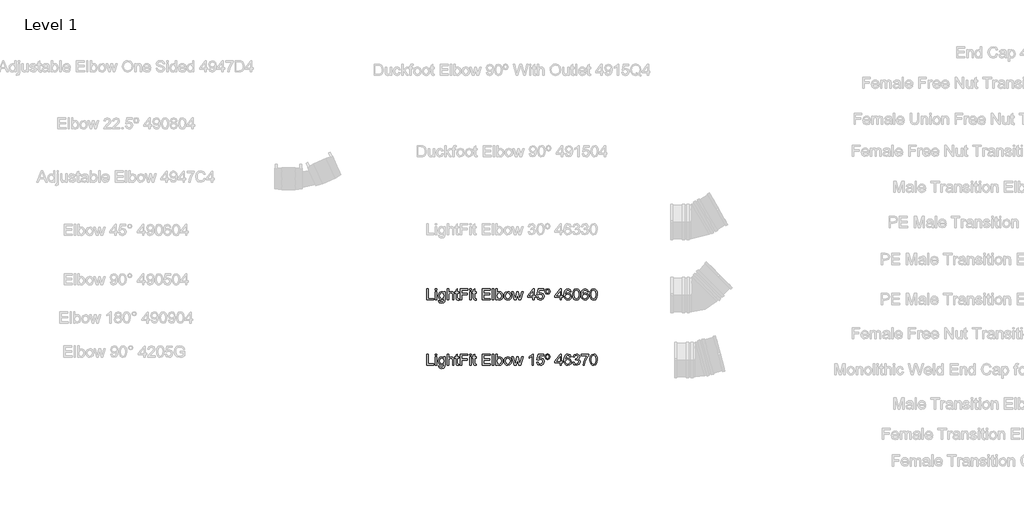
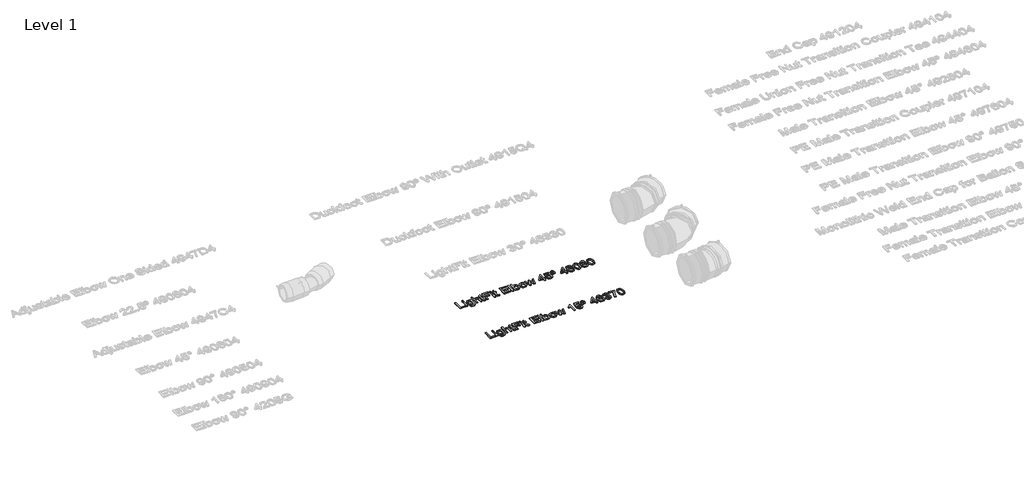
# One storey, part 15 of 41: 2 proxies.
"""IFC4 building model written with IfcOpenShell, lengths in millimetres."""

from ifc_helpers import new_model, si_unit, origin, origin_with_axes, place, context, project, spatial, polyline, outline, extrude, element, save

model = new_model("IFC4")

# Units and contexts
model_context = context("Model", 3, world=origin())
ifc_project = project(units=[si_unit("LENGTHUNIT", "METRE", prefix="MILLI")], contexts=[model_context])

# Site, building, storey
site = spatial("IfcSite", under=ifc_project)
building = spatial("IfcBuilding", under=site)
storey = spatial("IfcBuildingStorey", under=building, Name="Level 1", Elevation=0.0)

# Proxies
placement = place(None, origin())
element("IfcBuildingElementProxy", 1, Name="100 mm Arial", ObjectType="100 mm Arial", at=placement, inside=storey, context=model_context, shape_type="SweptSolid", body=[
    extrude(outline(polyline([(13240.3817727, 3808.5663925), (13240.3817727, 3867.6433156), (13247.766388, 3867.6433156), (13247.766388, 3815.9510079), (13277.3048496, 3815.9510079), (13277.3048496, 3808.5663925), (13240.3817727, 3808.5663925)])), origin_with_axes(), (0.0, 0.0, 1.0), 5.0),
    extrude(outline(polyline([(13284.689465, 3860.2587002), (13284.689465, 3867.6433156), (13292.0740804, 3867.6433156), (13292.0740804, 3860.2587002), (13284.689465, 3860.2587002)])), origin_with_axes(), (0.0, 0.0, 1.0), 5.0),
    extrude(outline(polyline([(13284.689465, 3808.5663925), (13284.689465, 3851.9510079), (13292.0740804, 3851.9510079), (13292.0740804, 3808.5663925), (13284.689465, 3808.5663925)])), origin_with_axes(), (0.0, 0.0, 1.0), 5.0),
    extrude(outline(polyline([(13301.3048496, 3804.8740849), (13308.689465, 3803.9510079), (13311.0836957, 3800.0567772), (13318.251965, 3798.4125464), (13325.8096573, 3800.2731233), (13329.4154265, 3805.4942772), (13329.9202342, 3814.1048541), (13318.3817727, 3808.5663925), (13310.7681909, 3810.1781714), (13305.0909073, 3815.0135079), (13300.3817727, 3830.4750464), (13302.4947534, 3841.9197579), (13308.610138, 3850.0183156), (13318.0211957, 3852.8740849), (13324.6089361, 3851.2587002), (13329.9202342, 3846.4125464), (13329.9202342, 3851.9510079), (13337.3048496, 3851.9510079), (13337.3048496, 3814.4942772), (13335.2856188, 3800.1505272), (13328.8889842, 3793.4798541), (13318.1077342, 3791.027931), (13305.8264842, 3794.4822579), (13301.3048496, 3804.8740849)]), holes=[polyline([(13307.766388, 3830.9798541), (13310.9178304, 3819.5495656), (13318.828888, 3815.9510079), (13326.7255227, 3819.527931), (13329.9202342, 3830.7635079), (13326.6317727, 3841.7755272), (13318.7135034, 3845.4894695), (13310.9610996, 3841.8332195), (13307.766388, 3830.9798541)])]), origin_with_axes(), (0.0, 0.0, 1.0), 5.0),
    extrude(outline(polyline([(13348.3817727, 3808.5663925), (13348.3817727, 3867.6433156), (13355.766388, 3867.6433156), (13355.766388, 3845.9221618), (13361.5248015, 3851.1361041), (13368.6173496, 3852.8740849), (13376.9106188, 3850.9774502), (13381.9442727, 3845.7346618), (13383.4586957, 3836.027931), (13383.4586957, 3808.5663925), (13376.0740804, 3808.5663925), (13376.0740804, 3835.2635079), (13373.7231188, 3843.0519695), (13367.0596573, 3845.4894695), (13361.0091765, 3843.8452387), (13356.970715, 3839.3885079), (13355.766388, 3831.6144695), (13355.766388, 3808.5663925), (13348.3817727, 3808.5663925)])), origin_with_axes(), (0.0, 0.0, 1.0), 5.0),
    extrude(outline(polyline([(13409.3048496, 3814.7250464), (13410.2279265, 3808.3500464), (13404.703888, 3807.6433156), (13398.516388, 3808.8692772), (13395.4298496, 3812.0856233), (13394.5356188, 3820.465431), (13394.5356188, 3844.5663925), (13388.9971573, 3844.5663925), (13388.9971573, 3851.9510079), (13394.5356188, 3851.9510079), (13394.5356188, 3862.4942772), (13401.9202342, 3866.8356233), (13401.9202342, 3851.9510079), (13409.3048496, 3851.9510079), (13409.3048496, 3844.5663925), (13401.9202342, 3844.5663925), (13401.9202342, 3820.6817772), (13402.3096573, 3816.8740849), (13403.5716765, 3815.5255272), (13406.0885034, 3815.027931), (13409.3048496, 3814.7250464)])), origin_with_axes(), (0.0, 0.0, 1.0), 5.0),
    extrude(outline(polyline([(13417.6125419, 3808.5663925), (13417.6125419, 3867.6433156), (13457.3048496, 3867.6433156), (13457.3048496, 3860.2587002), (13424.9971573, 3860.2587002), (13424.9971573, 3842.7202387), (13452.689465, 3842.7202387), (13452.689465, 3835.3356233), (13424.9971573, 3835.3356233), (13424.9971573, 3808.5663925), (13417.6125419, 3808.5663925)])), origin_with_axes(), (0.0, 0.0, 1.0), 5.0),
    extrude(outline(polyline([(13466.5356188, 3808.5663925), (13466.5356188, 3851.9510079), (13473.9202342, 3851.9510079), (13473.9202342, 3808.5663925), (13466.5356188, 3808.5663925)])), origin_with_axes(), (0.0, 0.0, 1.0), 5.0),
    extrude(outline(polyline([(13466.5356188, 3860.2587002), (13466.5356188, 3867.6433156), (13473.9202342, 3867.6433156), (13473.9202342, 3860.2587002), (13466.5356188, 3860.2587002)])), origin_with_axes(), (0.0, 0.0, 1.0), 5.0),
    extrude(outline(polyline([(13500.689465, 3814.7250464), (13501.6125419, 3808.3500464), (13496.0885034, 3807.6433156), (13489.9010034, 3808.8692772), (13486.814465, 3812.0856233), (13485.9202342, 3820.465431), (13485.9202342, 3844.5663925), (13480.3817727, 3844.5663925), (13480.3817727, 3851.9510079), (13485.9202342, 3851.9510079), (13485.9202342, 3862.4942772), (13493.3048496, 3866.8356233), (13493.3048496, 3851.9510079), (13500.689465, 3851.9510079), (13500.689465, 3844.5663925), (13493.3048496, 3844.5663925), (13493.3048496, 3820.6817772), (13493.6942727, 3816.8740849), (13494.9562919, 3815.5255272), (13497.4731188, 3815.027931), (13500.689465, 3814.7250464)])), origin_with_axes(), (0.0, 0.0, 1.0), 5.0),
    extrude(outline(polyline([(13532.0740804, 3808.5663925), (13532.0740804, 3867.6433156), (13574.5356188, 3867.6433156), (13574.5356188, 3860.2587002), (13539.4586957, 3860.2587002), (13539.4586957, 3842.7202387), (13572.689465, 3842.7202387), (13572.689465, 3835.3356233), (13539.4586957, 3835.3356233), (13539.4586957, 3815.9510079), (13575.4586957, 3815.9510079), (13575.4586957, 3808.5663925), (13532.0740804, 3808.5663925)])), origin_with_axes(), (0.0, 0.0, 1.0), 5.0),
    extrude(outline(polyline([(13585.6125419, 3808.5663925), (13585.6125419, 3867.6433156), (13592.9971573, 3867.6433156), (13592.9971573, 3808.5663925), (13585.6125419, 3808.5663925)])), origin_with_axes(), (0.0, 0.0, 1.0), 5.0),
    extrude(outline(polyline([(13611.4586957, 3808.5663925), (13604.0740804, 3808.5663925), (13604.0740804, 3867.6433156), (13611.4586957, 3867.6433156), (13611.4586957, 3845.7346618), (13616.6293688, 3851.0892291), (13623.0548496, 3852.8740849), (13630.453888, 3851.2659118), (13636.1942727, 3846.7442772), (13639.720715, 3839.7130272), (13640.9971573, 3830.9077387), (13639.6756429, 3821.0495656), (13635.7110996, 3813.715431), (13629.8931909, 3809.1613445), (13623.0115804, 3807.6433156), (13616.4454746, 3809.6012483), (13611.4586957, 3815.4750464), (13611.4586957, 3808.5663925)]), holes=[polyline([(13611.4586957, 3830.5615849), (13613.4779265, 3820.2346618), (13622.376965, 3815.027931), (13630.2808111, 3818.8644695), (13633.6125419, 3830.3019695), (13630.4178304, 3841.7827387), (13622.6942727, 3845.4894695), (13614.7904265, 3841.652931), (13611.4586957, 3830.5615849)])]), origin_with_axes(), (0.0, 0.0, 1.0), 5.0),
    extrude(outline(polyline([(13647.4586957, 3830.2587002), (13649.0560515, 3840.7190368), (13653.8481188, 3848.0712002), (13666.8577342, 3852.8740849), (13674.6155467, 3851.4119454), (13680.8120611, 3847.0255272), (13684.8739602, 3840.0609839), (13686.2279265, 3830.8644695), (13683.8336957, 3817.7250464), (13676.860138, 3810.2899502), (13666.8577342, 3807.6433156), (13659.0061717, 3809.1000464), (13652.8168688, 3813.4702387), (13648.798239, 3820.5808156), (13647.4586957, 3830.2587002)]), holes=[polyline([(13654.8433111, 3830.2731233), (13658.2615804, 3818.8284118), (13666.8577342, 3815.027931), (13675.4250419, 3818.8500464), (13678.8433111, 3830.5038925), (13675.4034073, 3841.6889887), (13666.8577342, 3845.4894695), (13658.2615804, 3841.7034118), (13654.8433111, 3830.2731233)])]), origin_with_axes(), (0.0, 0.0, 1.0), 5.0),
    extrude(outline(polyline([(13701.7327342, 3808.5663925), (13688.5356188, 3851.9510079), (13696.2086957, 3851.9510079), (13703.6942727, 3826.6385079), (13705.9298496, 3817.5952387), (13707.7615804, 3826.3067772), (13713.7183111, 3851.9510079), (13722.516388, 3851.9510079), (13728.4442727, 3826.3788925), (13730.0740804, 3818.4894695), (13732.4106188, 3826.8115849), (13739.9106188, 3851.9510079), (13747.6125419, 3851.9510079), (13734.314465, 3808.5663925), (13725.3865804, 3808.5663925), (13719.7183111, 3834.0087002), (13718.0740804, 3841.9413925), (13710.7615804, 3808.5663925), (13701.7327342, 3808.5663925)])), origin_with_axes(), (0.0, 0.0, 1.0), 5.0),
    extrude(outline(polyline([(13797.9202342, 3808.5663925), (13797.9202342, 3822.4125464), (13771.1510034, 3822.4125464), (13771.1510034, 3829.7971618), (13799.766388, 3866.7202387), (13805.3048496, 3866.7202387), (13805.3048496, 3829.7971618), (13812.689465, 3829.7971618), (13812.689465, 3822.4125464), (13805.3048496, 3822.4125464), (13805.3048496, 3808.5663925), (13797.9202342, 3808.5663925)]), holes=[polyline([(13797.9202342, 3829.7971618), (13797.9202342, 3852.6144695), (13780.2375419, 3829.7971618), (13797.9202342, 3829.7971618)])]), origin_with_axes(), (0.0, 0.0, 1.0), 5.0),
    extrude(outline(polyline([(13819.1510034, 3824.2587002), (13826.5356188, 3825.1817772), (13830.2567727, 3817.5736041), (13837.9731188, 3815.027931), (13847.2327342, 3818.5687964), (13850.5356188, 3827.965431), (13847.4418688, 3836.7346618), (13838.0885034, 3839.9510079), (13831.6053304, 3838.6673541), (13827.4586957, 3835.3356233), (13820.0740804, 3836.2587002), (13826.5356188, 3866.7202387), (13855.1510034, 3866.7202387), (13855.1510034, 3859.3356233), (13832.5067727, 3859.3356233), (13829.3481188, 3843.0663925), (13840.1510034, 3847.3356233), (13852.7784073, 3842.0423541), (13857.9202342, 3828.4269695), (13853.2904265, 3814.7250464), (13846.641388, 3809.4137483), (13837.9442727, 3807.6433156), (13824.9130227, 3812.1937964), (13819.1510034, 3824.2587002)])), origin_with_axes(), (0.0, 0.0, 1.0), 5.0),
    extrude(outline(polyline([(13875.9202342, 3868.5663925), (13885.5692727, 3864.5135079), (13889.3048496, 3853.3212002), (13885.547638, 3842.1577387), (13875.9635034, 3838.1048541), (13866.2928304, 3842.0784118), (13862.5356188, 3853.1481233), (13866.2711957, 3864.5135079), (13875.9202342, 3868.5663925)]), holes=[polyline([(13875.9202342, 3863.027931), (13871.5716765, 3860.7562964), (13869.9202342, 3853.3356233), (13871.6005227, 3845.9798541), (13875.9202342, 3843.6433156), (13880.2543688, 3845.9798541), (13881.9202342, 3853.5375464), (13880.2399457, 3860.7130272), (13875.9202342, 3863.027931)])]), origin_with_axes(), (0.0, 0.0, 1.0), 5.0),
    extrude(outline(polyline([(13941.9202342, 3808.5663925), (13941.9202342, 3822.4125464), (13915.1510034, 3822.4125464), (13915.1510034, 3829.7971618), (13943.766388, 3866.7202387), (13949.3048496, 3866.7202387), (13949.3048496, 3829.7971618), (13956.689465, 3829.7971618), (13956.689465, 3822.4125464), (13949.3048496, 3822.4125464), (13949.3048496, 3808.5663925), (13941.9202342, 3808.5663925)]), holes=[polyline([(13941.9202342, 3829.7971618), (13941.9202342, 3852.6144695), (13924.2375419, 3829.7971618), (13941.9202342, 3829.7971618)])]), origin_with_axes(), (0.0, 0.0, 1.0), 5.0),
    extrude(outline(polyline([(14000.9971573, 3851.9510079), (13993.6125419, 3851.027931), (13990.814465, 3857.1865849), (13983.4154265, 3860.2587002), (13976.751965, 3858.4702387), (13971.7110996, 3851.7562964), (13969.6125419, 3838.5952387), (13976.1245611, 3844.4870656), (13984.1942727, 3846.4125464), (13996.7423496, 3841.1481233), (14001.9202342, 3827.5471618), (13999.4827342, 3817.3572579), (13992.7760034, 3810.1457195), (13983.0981188, 3807.6433156), (13974.720114, 3809.3019695), (13968.047638, 3814.277931), (13963.6828544, 3823.0615849), (13962.2279265, 3836.1433156), (13963.8433111, 3850.8512483), (13968.689465, 3860.9077387), (13975.3060515, 3865.9594214), (13983.876965, 3867.6433156), (13995.5452342, 3863.4750464), (14000.9971573, 3851.9510079)]), holes=[polyline([(13969.6125419, 3827.6625464), (13971.3216765, 3821.2659118), (13975.8649457, 3816.621681), (13982.5211957, 3815.027931), (13991.2255227, 3818.3308156), (13994.5356188, 3827.3019695), (13991.2687919, 3835.8909118), (13982.2183111, 3839.027931), (13973.283215, 3835.8909118), (13969.6125419, 3827.6625464)])]), origin_with_axes(), (0.0, 0.0, 1.0), 5.0),
    extrude(outline(polyline([(14008.3817727, 3837.6288925), (14010.5524457, 3854.6264887), (14016.9995611, 3864.4269695), (14027.766388, 3867.6433156), (14036.391388, 3865.7394695), (14042.3481188, 3860.2514887), (14045.8096573, 3851.5111041), (14047.1510034, 3837.6288925), (14045.001965, 3820.7034118), (14038.5764842, 3810.8812964), (14027.766388, 3807.6433156), (14020.0933111, 3809.0495656), (14014.266388, 3813.2683156), (14009.8529265, 3823.2599022), (14008.3817727, 3837.6288925)]), holes=[polyline([(14015.766388, 3837.6433156), (14019.2279265, 3819.3043733), (14027.766388, 3815.027931), (14036.3048496, 3819.3187964), (14039.766388, 3837.6433156), (14036.4202342, 3855.7731233), (14027.6798496, 3860.2587002), (14019.3433111, 3856.3067772), (14015.766388, 3837.6433156)])]), origin_with_axes(), (0.0, 0.0, 1.0), 5.0),
    extrude(outline(polyline([(14091.4586957, 3851.9510079), (14084.0740804, 3851.027931), (14081.2760034, 3857.1865849), (14073.876965, 3860.2587002), (14067.2135034, 3858.4702387), (14062.172638, 3851.7562964), (14060.0740804, 3838.5952387), (14066.5860996, 3844.4870656), (14074.6558111, 3846.4125464), (14087.203888, 3841.1481233), (14092.3817727, 3827.5471618), (14089.9442727, 3817.3572579), (14083.2375419, 3810.1457195), (14073.5596573, 3807.6433156), (14065.1816525, 3809.3019695), (14058.5091765, 3814.277931), (14054.1443929, 3823.0615849), (14052.689465, 3836.1433156), (14054.3048496, 3850.8512483), (14059.1510034, 3860.9077387), (14065.76759, 3865.9594214), (14074.3385034, 3867.6433156), (14086.0067727, 3863.4750464), (14091.4586957, 3851.9510079)]), holes=[polyline([(14060.0740804, 3827.6625464), (14061.783215, 3821.2659118), (14066.3264842, 3816.621681), (14072.9827342, 3815.027931), (14081.6870611, 3818.3308156), (14084.9971573, 3827.3019695), (14081.7303304, 3835.8909118), (14072.6798496, 3839.027931), (14063.7447534, 3835.8909118), (14060.0740804, 3827.6625464)])]), origin_with_axes(), (0.0, 0.0, 1.0), 5.0),
    extrude(outline(polyline([(14098.8433111, 3837.6288925), (14101.0139842, 3854.6264887), (14107.4610996, 3864.4269695), (14118.2279265, 3867.6433156), (14126.8529265, 3865.7394695), (14132.8096573, 3860.2514887), (14136.2711957, 3851.5111041), (14137.6125419, 3837.6288925), (14135.4635034, 3820.7034118), (14129.0380227, 3810.8812964), (14118.2279265, 3807.6433156), (14110.5548496, 3809.0495656), (14104.7279265, 3813.2683156), (14100.314465, 3823.2599022), (14098.8433111, 3837.6288925)]), holes=[polyline([(14106.2279265, 3837.6433156), (14109.689465, 3819.3043733), (14118.2279265, 3815.027931), (14126.766388, 3819.3187964), (14130.2279265, 3837.6433156), (14126.8817727, 3855.7731233), (14118.141388, 3860.2587002), (14109.8048496, 3856.3067772), (14106.2279265, 3837.6433156)])]), origin_with_axes(), (0.0, 0.0, 1.0), 5.0),
])
element("IfcBuildingElementProxy", 2, Name="100 mm Arial", ObjectType="100 mm Arial", at=placement, inside=storey, context=model_context, shape_type="SweptSolid", body=[
    extrude(outline(polyline([(13240.3817727, 3465.3655791), (13240.3817727, 3524.4425021), (13247.766388, 3524.4425021), (13247.766388, 3472.7501944), (13277.3048496, 3472.7501944), (13277.3048496, 3465.3655791), (13240.3817727, 3465.3655791)])), origin_with_axes(), (0.0, 0.0, 1.0), 5.0),
    extrude(outline(polyline([(13284.689465, 3517.0578868), (13284.689465, 3524.4425021), (13292.0740804, 3524.4425021), (13292.0740804, 3517.0578868), (13284.689465, 3517.0578868)])), origin_with_axes(), (0.0, 0.0, 1.0), 5.0),
    extrude(outline(polyline([(13284.689465, 3465.3655791), (13284.689465, 3508.7501944), (13292.0740804, 3508.7501944), (13292.0740804, 3465.3655791), (13284.689465, 3465.3655791)])), origin_with_axes(), (0.0, 0.0, 1.0), 5.0),
    extrude(outline(polyline([(13301.3048496, 3461.6732714), (13308.689465, 3460.7501944), (13311.0836957, 3456.8559637), (13318.251965, 3455.2117329), (13325.8096573, 3457.0723098), (13329.4154265, 3462.2934637), (13329.9202342, 3470.9040406), (13318.3817727, 3465.3655791), (13310.7681909, 3466.9773579), (13305.0909073, 3471.8126944), (13300.3817727, 3487.2742329), (13302.4947534, 3498.7189444), (13308.610138, 3506.8175021), (13318.0211957, 3509.6732714), (13324.6089361, 3508.0578868), (13329.9202342, 3503.2117329), (13329.9202342, 3508.7501944), (13337.3048496, 3508.7501944), (13337.3048496, 3471.2934637), (13335.2856188, 3456.9497137), (13328.8889842, 3450.2790406), (13318.1077342, 3447.8271175), (13305.8264842, 3451.2814444), (13301.3048496, 3461.6732714)]), holes=[polyline([(13307.766388, 3487.7790406), (13310.9178304, 3476.3487521), (13318.828888, 3472.7501944), (13326.7255227, 3476.3271175), (13329.9202342, 3487.5626944), (13326.6317727, 3498.5747137), (13318.7135034, 3502.288656), (13310.9610996, 3498.632406), (13307.766388, 3487.7790406)])]), origin_with_axes(), (0.0, 0.0, 1.0), 5.0),
    extrude(outline(polyline([(13348.3817727, 3465.3655791), (13348.3817727, 3524.4425021), (13355.766388, 3524.4425021), (13355.766388, 3502.7213483), (13361.5248015, 3507.9352906), (13368.6173496, 3509.6732714), (13376.9106188, 3507.7766368), (13381.9442727, 3502.5338483), (13383.4586957, 3492.8271175), (13383.4586957, 3465.3655791), (13376.0740804, 3465.3655791), (13376.0740804, 3492.0626944), (13373.7231188, 3499.851156), (13367.0596573, 3502.288656), (13361.0091765, 3500.6444252), (13356.970715, 3496.1876944), (13355.766388, 3488.413656), (13355.766388, 3465.3655791), (13348.3817727, 3465.3655791)])), origin_with_axes(), (0.0, 0.0, 1.0), 5.0),
    extrude(outline(polyline([(13409.3048496, 3471.5242329), (13410.2279265, 3465.1492329), (13404.703888, 3464.4425021), (13398.516388, 3465.6684637), (13395.4298496, 3468.8848098), (13394.5356188, 3477.2646175), (13394.5356188, 3501.3655791), (13388.9971573, 3501.3655791), (13388.9971573, 3508.7501944), (13394.5356188, 3508.7501944), (13394.5356188, 3519.2934637), (13401.9202342, 3523.6348098), (13401.9202342, 3508.7501944), (13409.3048496, 3508.7501944), (13409.3048496, 3501.3655791), (13401.9202342, 3501.3655791), (13401.9202342, 3477.4809637), (13402.3096573, 3473.6732714), (13403.5716765, 3472.3247137), (13406.0885034, 3471.8271175), (13409.3048496, 3471.5242329)])), origin_with_axes(), (0.0, 0.0, 1.0), 5.0),
    extrude(outline(polyline([(13417.6125419, 3465.3655791), (13417.6125419, 3524.4425021), (13457.3048496, 3524.4425021), (13457.3048496, 3517.0578868), (13424.9971573, 3517.0578868), (13424.9971573, 3499.5194252), (13452.689465, 3499.5194252), (13452.689465, 3492.1348098), (13424.9971573, 3492.1348098), (13424.9971573, 3465.3655791), (13417.6125419, 3465.3655791)])), origin_with_axes(), (0.0, 0.0, 1.0), 5.0),
    extrude(outline(polyline([(13466.5356188, 3465.3655791), (13466.5356188, 3508.7501944), (13473.9202342, 3508.7501944), (13473.9202342, 3465.3655791), (13466.5356188, 3465.3655791)])), origin_with_axes(), (0.0, 0.0, 1.0), 5.0),
    extrude(outline(polyline([(13466.5356188, 3517.0578868), (13466.5356188, 3524.4425021), (13473.9202342, 3524.4425021), (13473.9202342, 3517.0578868), (13466.5356188, 3517.0578868)])), origin_with_axes(), (0.0, 0.0, 1.0), 5.0),
    extrude(outline(polyline([(13500.689465, 3471.5242329), (13501.6125419, 3465.1492329), (13496.0885034, 3464.4425021), (13489.9010034, 3465.6684637), (13486.814465, 3468.8848098), (13485.9202342, 3477.2646175), (13485.9202342, 3501.3655791), (13480.3817727, 3501.3655791), (13480.3817727, 3508.7501944), (13485.9202342, 3508.7501944), (13485.9202342, 3519.2934637), (13493.3048496, 3523.6348098), (13493.3048496, 3508.7501944), (13500.689465, 3508.7501944), (13500.689465, 3501.3655791), (13493.3048496, 3501.3655791), (13493.3048496, 3477.4809637), (13493.6942727, 3473.6732714), (13494.9562919, 3472.3247137), (13497.4731188, 3471.8271175), (13500.689465, 3471.5242329)])), origin_with_axes(), (0.0, 0.0, 1.0), 5.0),
    extrude(outline(polyline([(13532.0740804, 3465.3655791), (13532.0740804, 3524.4425021), (13574.5356188, 3524.4425021), (13574.5356188, 3517.0578868), (13539.4586957, 3517.0578868), (13539.4586957, 3499.5194252), (13572.689465, 3499.5194252), (13572.689465, 3492.1348098), (13539.4586957, 3492.1348098), (13539.4586957, 3472.7501944), (13575.4586957, 3472.7501944), (13575.4586957, 3465.3655791), (13532.0740804, 3465.3655791)])), origin_with_axes(), (0.0, 0.0, 1.0), 5.0),
    extrude(outline(polyline([(13585.6125419, 3465.3655791), (13585.6125419, 3524.4425021), (13592.9971573, 3524.4425021), (13592.9971573, 3465.3655791), (13585.6125419, 3465.3655791)])), origin_with_axes(), (0.0, 0.0, 1.0), 5.0),
    extrude(outline(polyline([(13611.4586957, 3465.3655791), (13604.0740804, 3465.3655791), (13604.0740804, 3524.4425021), (13611.4586957, 3524.4425021), (13611.4586957, 3502.5338483), (13616.6293688, 3507.8884156), (13623.0548496, 3509.6732714), (13630.453888, 3508.0650983), (13636.1942727, 3503.5434637), (13639.720715, 3496.5122137), (13640.9971573, 3487.7069252), (13639.6756429, 3477.8487521), (13635.7110996, 3470.5146175), (13629.8931909, 3465.960531), (13623.0115804, 3464.4425021), (13616.4454746, 3466.4004348), (13611.4586957, 3472.2742329), (13611.4586957, 3465.3655791)]), holes=[polyline([(13611.4586957, 3487.3607714), (13613.4779265, 3477.0338483), (13622.376965, 3471.8271175), (13630.2808111, 3475.663656), (13633.6125419, 3487.101156), (13630.4178304, 3498.5819252), (13622.6942727, 3502.288656), (13614.7904265, 3498.4521175), (13611.4586957, 3487.3607714)])]), origin_with_axes(), (0.0, 0.0, 1.0), 5.0),
    extrude(outline(polyline([(13647.4586957, 3487.0578868), (13649.0560515, 3497.5182233), (13653.8481188, 3504.8703868), (13666.8577342, 3509.6732714), (13674.6155467, 3508.2111319), (13680.8120611, 3503.8247137), (13684.8739602, 3496.8601704), (13686.2279265, 3487.663656), (13683.8336957, 3474.5242329), (13676.860138, 3467.0891368), (13666.8577342, 3464.4425021), (13659.0061717, 3465.8992329), (13652.8168688, 3470.2694252), (13648.798239, 3477.3800021), (13647.4586957, 3487.0578868)]), holes=[polyline([(13654.8433111, 3487.0723098), (13658.2615804, 3475.6275983), (13666.8577342, 3471.8271175), (13675.4250419, 3475.6492329), (13678.8433111, 3487.3030791), (13675.4034073, 3498.4881752), (13666.8577342, 3502.288656), (13658.2615804, 3498.5025983), (13654.8433111, 3487.0723098)])]), origin_with_axes(), (0.0, 0.0, 1.0), 5.0),
    extrude(outline(polyline([(13701.7327342, 3465.3655791), (13688.5356188, 3508.7501944), (13696.2086957, 3508.7501944), (13703.6942727, 3483.4376944), (13705.9298496, 3474.3944252), (13707.7615804, 3483.1059637), (13713.7183111, 3508.7501944), (13722.516388, 3508.7501944), (13728.4442727, 3483.1780791), (13730.0740804, 3475.288656), (13732.4106188, 3483.6107714), (13739.9106188, 3508.7501944), (13747.6125419, 3508.7501944), (13734.314465, 3465.3655791), (13725.3865804, 3465.3655791), (13719.7183111, 3490.8078868), (13718.0740804, 3498.7405791), (13710.7615804, 3465.3655791), (13701.7327342, 3465.3655791)])), origin_with_axes(), (0.0, 0.0, 1.0), 5.0),
    extrude(outline(polyline([(13801.6125419, 3465.3655791), (13794.2279265, 3465.3655791), (13794.2279265, 3511.4040406), (13787.2327342, 3506.4208675), (13779.4586957, 3502.6925021), (13779.4586957, 3509.6732714), (13790.283215, 3516.5819252), (13796.8529265, 3524.4425021), (13801.6125419, 3524.4425021), (13801.6125419, 3465.3655791)])), origin_with_axes(), (0.0, 0.0, 1.0), 5.0),
    extrude(outline(polyline([(13819.1510034, 3481.0578868), (13826.5356188, 3481.9809637), (13830.2567727, 3474.3727906), (13837.9731188, 3471.8271175), (13847.2327342, 3475.3679829), (13850.5356188, 3484.7646175), (13847.4418688, 3493.5338483), (13838.0885034, 3496.7501944), (13831.6053304, 3495.4665406), (13827.4586957, 3492.1348098), (13820.0740804, 3493.0578868), (13826.5356188, 3523.5194252), (13855.1510034, 3523.5194252), (13855.1510034, 3516.1348098), (13832.5067727, 3516.1348098), (13829.3481188, 3499.8655791), (13840.1510034, 3504.1348098), (13852.7784073, 3498.8415406), (13857.9202342, 3485.226156), (13853.2904265, 3471.5242329), (13846.641388, 3466.2129348), (13837.9442727, 3464.4425021), (13824.9130227, 3468.9929829), (13819.1510034, 3481.0578868)])), origin_with_axes(), (0.0, 0.0, 1.0), 5.0),
    extrude(outline(polyline([(13875.9202342, 3525.3655791), (13885.5692727, 3521.3126944), (13889.3048496, 3510.1203868), (13885.547638, 3498.9569252), (13875.9635034, 3494.9040406), (13866.2928304, 3498.8775983), (13862.5356188, 3509.9473098), (13866.2711957, 3521.3126944), (13875.9202342, 3525.3655791)]), holes=[polyline([(13875.9202342, 3519.8271175), (13871.5716765, 3517.5554829), (13869.9202342, 3510.1348098), (13871.6005227, 3502.7790406), (13875.9202342, 3500.4425021), (13880.2543688, 3502.7790406), (13881.9202342, 3510.3367329), (13880.2399457, 3517.5122137), (13875.9202342, 3519.8271175)])]), origin_with_axes(), (0.0, 0.0, 1.0), 5.0),
    extrude(outline(polyline([(13941.9202342, 3465.3655791), (13941.9202342, 3479.2117329), (13915.1510034, 3479.2117329), (13915.1510034, 3486.5963483), (13943.766388, 3523.5194252), (13949.3048496, 3523.5194252), (13949.3048496, 3486.5963483), (13956.689465, 3486.5963483), (13956.689465, 3479.2117329), (13949.3048496, 3479.2117329), (13949.3048496, 3465.3655791), (13941.9202342, 3465.3655791)]), holes=[polyline([(13941.9202342, 3486.5963483), (13941.9202342, 3509.413656), (13924.2375419, 3486.5963483), (13941.9202342, 3486.5963483)])]), origin_with_axes(), (0.0, 0.0, 1.0), 5.0),
    extrude(outline(polyline([(14000.9971573, 3508.7501944), (13993.6125419, 3507.8271175), (13990.814465, 3513.9857714), (13983.4154265, 3517.0578868), (13976.751965, 3515.2694252), (13971.7110996, 3508.5554829), (13969.6125419, 3495.3944252), (13976.1245611, 3501.2862521), (13984.1942727, 3503.2117329), (13996.7423496, 3497.9473098), (14001.9202342, 3484.3463483), (13999.4827342, 3474.1564444), (13992.7760034, 3466.944906), (13983.0981188, 3464.4425021), (13974.720114, 3466.101156), (13968.047638, 3471.0771175), (13963.6828544, 3479.8607714), (13962.2279265, 3492.9425021), (13963.8433111, 3507.6504348), (13968.689465, 3517.7069252), (13975.3060515, 3522.7586079), (13983.876965, 3524.4425021), (13995.5452342, 3520.2742329), (14000.9971573, 3508.7501944)]), holes=[polyline([(13969.6125419, 3484.4617329), (13971.3216765, 3478.0650983), (13975.8649457, 3473.4208675), (13982.5211957, 3471.8271175), (13991.2255227, 3475.1300021), (13994.5356188, 3484.101156), (13991.2687919, 3492.6900983), (13982.2183111, 3495.8271175), (13973.283215, 3492.6900983), (13969.6125419, 3484.4617329)])]), origin_with_axes(), (0.0, 0.0, 1.0), 5.0),
    extrude(outline(polyline([(14008.3817727, 3481.0578868), (14015.766388, 3481.9809637), (14019.8409073, 3474.2069252), (14027.4635034, 3471.8271175), (14036.4346573, 3475.101156), (14039.766388, 3483.2069252), (14036.4635034, 3490.8439444), (14028.0692727, 3493.8655791), (14022.891388, 3493.0578868), (14023.7135034, 3500.4425021), (14033.2760034, 3502.476156), (14036.9971573, 3508.9953868), (14034.3000419, 3514.7718291), (14027.3481188, 3517.0578868), (14020.3096573, 3514.7501944), (14016.689465, 3507.8271175), (14009.3048496, 3508.7501944), (14015.3481188, 3520.3319252), (14027.0885034, 3524.4425021), (14035.9947534, 3522.4160598), (14042.2255227, 3516.8775983), (14044.3817727, 3509.4280791), (14042.3336957, 3502.6203868), (14036.2760034, 3497.7309637), (14044.3240804, 3492.6828868), (14047.1510034, 3483.0771175), (14041.4971573, 3469.8655791), (14027.203888, 3464.4425021), (14014.251965, 3469.0723098), (14008.3817727, 3481.0578868)])), origin_with_axes(), (0.0, 0.0, 1.0), 5.0),
    extrude(outline(polyline([(14053.6125419, 3516.1348098), (14053.6125419, 3523.5194252), (14092.3817727, 3523.5194252), (14092.3817727, 3517.5482714), (14081.3841765, 3501.6612521), (14072.9683111, 3481.4184637), (14070.2279265, 3465.3655791), (14062.8433111, 3465.3655791), (14065.7784073, 3482.0242329), (14073.8336957, 3500.8535598), (14084.9971573, 3516.1348098), (14053.6125419, 3516.1348098)])), origin_with_axes(), (0.0, 0.0, 1.0), 5.0),
    extrude(outline(polyline([(14098.8433111, 3494.4280791), (14101.0139842, 3511.4256752), (14107.4610996, 3521.226156), (14118.2279265, 3524.4425021), (14126.8529265, 3522.538656), (14132.8096573, 3517.0506752), (14136.2711957, 3508.3102906), (14137.6125419, 3494.4280791), (14135.4635034, 3477.5025983), (14129.0380227, 3467.6804829), (14118.2279265, 3464.4425021), (14110.5548496, 3465.8487521), (14104.7279265, 3470.0675021), (14100.314465, 3480.0590887), (14098.8433111, 3494.4280791)]), holes=[polyline([(14106.2279265, 3494.4425021), (14109.689465, 3476.1035598), (14118.2279265, 3471.8271175), (14126.766388, 3476.1179829), (14130.2279265, 3494.4425021), (14126.8817727, 3512.5723098), (14118.141388, 3517.0578868), (14109.8048496, 3513.1059637), (14106.2279265, 3494.4425021)])]), origin_with_axes(), (0.0, 0.0, 1.0), 5.0),
])

save(model, "model.ifc")
